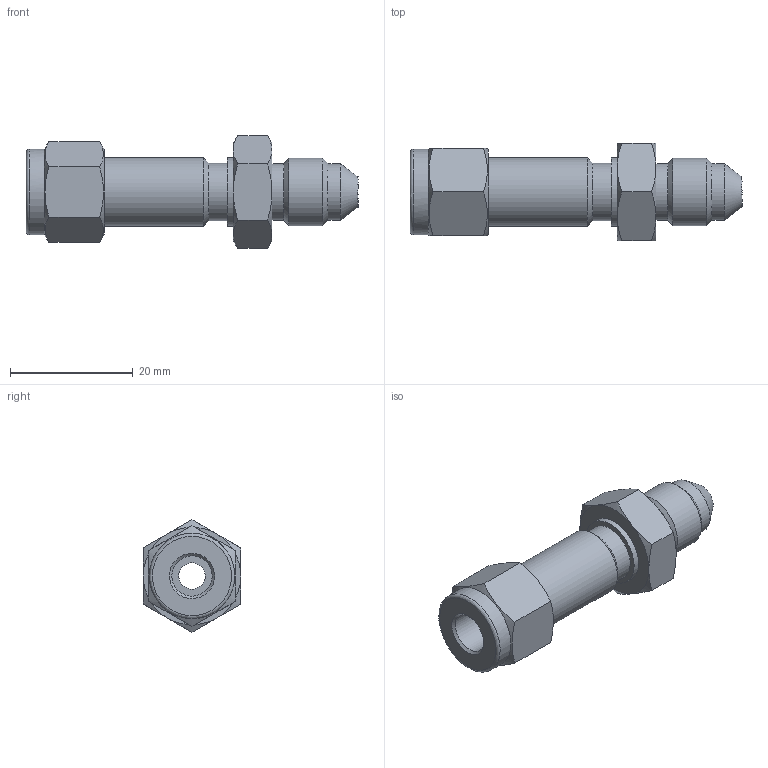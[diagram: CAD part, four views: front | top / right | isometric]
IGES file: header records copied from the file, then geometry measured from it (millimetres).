
Global section: file name: SABU-4-4U; native system: Autodesk Inventor 2016; preprocessor: unknown; author: DESIGNPC2; date: 20151229.190351; units: millimetre
Bounding box: 54.04 x 15.88 x 18.33 mm (x, y, z)
Volume: 5397.4 mm3; surface area: 3469.6 mm2
Topology: 1 solids, 1 shells, 49 faces, 132 edges, 91 vertices
Faces by surface type: bspline 49
